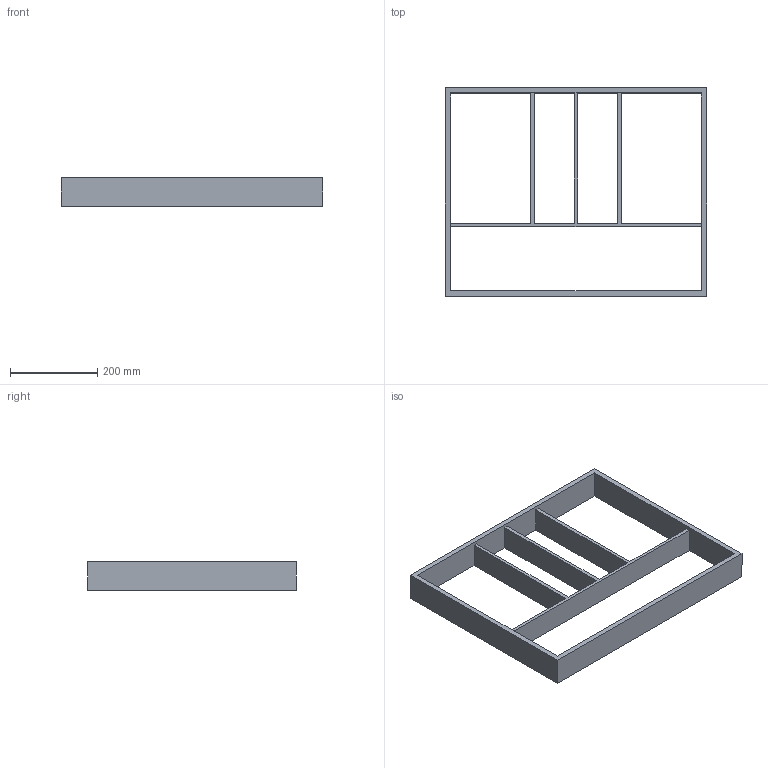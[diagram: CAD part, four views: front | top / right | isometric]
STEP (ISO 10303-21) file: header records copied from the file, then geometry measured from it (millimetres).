
FILE_DESCRIPTION (( 'STEP AP214' ), '1' );
FILE_NAME ('Vario Multi NL500_ZE600_16 mm_Buche.step', '2010-10-07T06:24:24', ( 'grass' ), ( '' ), 'SwSTEP 2.0', 'SolidWorks 2010', '' );
FILE_SCHEMA (( 'AUTOMOTIVE_DESIGN' ));
Length unit declared in the file: millimetre
Products named in the file (1): Vario Multi NL500_ZE600_16 mm_Buche
Bounding box: 600 x 479 x 65 mm (x, y, z)
Volume: 2317214.4 mm3; surface area: 512704 mm2
Topology: 1 solids, 1 shells, 22 faces, 72 edges, 48 vertices
Faces by surface type: plane 22
Entity records: 830 total; most frequent: ORIENTED_EDGE 144, CARTESIAN_POINT 143, DIRECTION 118, EDGE_CURVE 72, VECTOR 72, LINE 72, VERTEX_POINT 48, EDGE_LOOP 28
